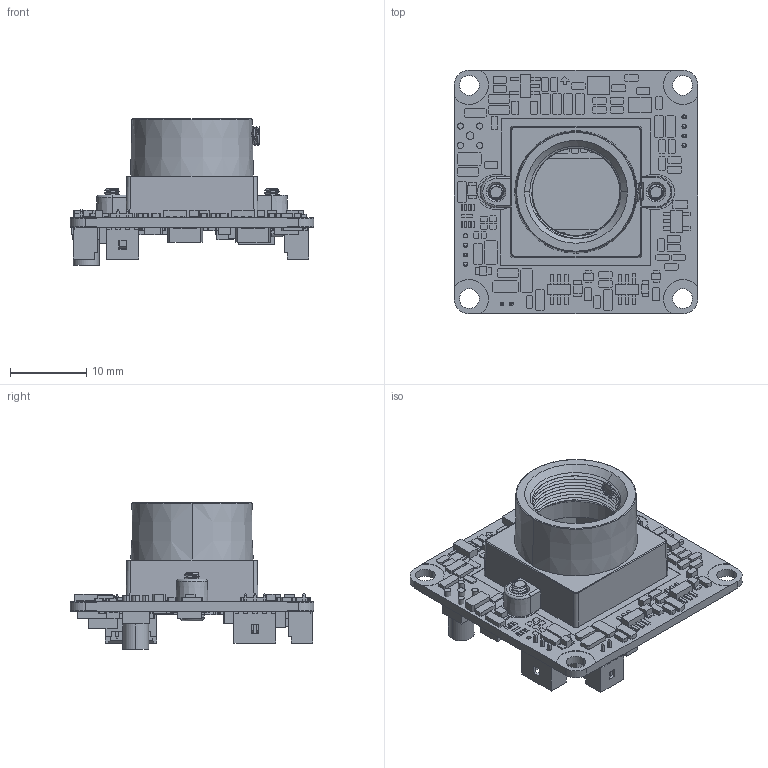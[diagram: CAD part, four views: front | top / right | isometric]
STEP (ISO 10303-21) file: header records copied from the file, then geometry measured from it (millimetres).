
FILE_DESCRIPTION((''),'2;1');
FILE_NAME('202-ESHSAHCV-662-xyzq-With_M12_Lens_Mount_revA','2024-12-19T',('MEC-1'),(''),'Videology, 2010180','Videology','');
FILE_SCHEMA(('CONFIG_CONTROL_DESIGN'));
Length unit declared in the file: millimetre
Products named in the file (11): 202; 202_1; 202_2; HD_CON; 530470310; 530470410; 53047-0210; LENS_HOLDER; SCREW; M2; 202-ESHSAHCV-662-xyzq-With_M12_Lens_Mount_revA
Assembly tree (11 placements, depth 2):
  202-ESHSAHCV-662-xyzq-With_M12_Lens_Mount_revA
    202
    202_1
    202_2
    HD_CON
    530470310
    530470410
    53047-0210
    LENS_HOLDER
    SCREW  x2
    M2
Bounding box: 32 x 32 x 19.2 mm (x, y, z)
Volume: 3281.8 mm3; surface area: 6804.3 mm2
Topology: 9 solids, 100 shells, 2767 faces, 7133 edges, 4708 vertices
Faces by surface type: plane 2459, cylinder 205, bspline 71, cone 16, torus 12, sphere 4
Entity records: 93686 total; most frequent: CARTESIAN_POINT 28762, ORIENTED_EDGE 13964, DIRECTION 12003, EDGE_CURVE 6982, VECTOR 6391, LINE 6391, VERTEX_POINT 4612, EDGE_LOOP 2880
